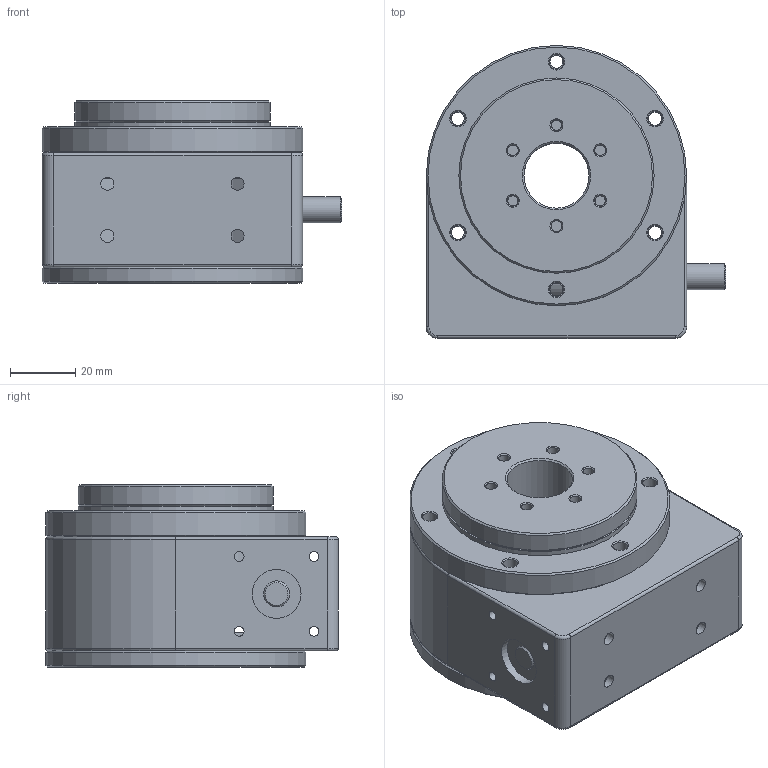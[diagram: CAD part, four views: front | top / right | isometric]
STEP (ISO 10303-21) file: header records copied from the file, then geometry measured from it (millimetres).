
FILE_DESCRIPTION((''),'2;1');
FILE_NAME('I:\Gleitlager\Konstruktion\robolink\Vorserie\RL-D\RL-D Gelenke\RL-D-20-1xx\Simpel\___RL-D-20-102-38-01035.stp','2015-05-05T08:52:38',('mraak'),(''),'Autodesk Inventor 2013','Autodesk Inventor 2013','');
FILE_SCHEMA(('AUTOMOTIVE_DESIGN { 1 0 10303 214 1 1 1 1 }'));
Length unit declared in the file: millimetre
Products named in the file (9): ___RL-D-20-102-38-00035; ___RL-D-20-0XXXX; ___RL-D-20-X0XXX; PRT-01-20; Bauteil17; Bauteil13; Bauteil15; Bauteil7; ___RL-D-20-XXX4X
Assembly tree (10 placements, depth 3):
  ___RL-D-20-102-38-00035
    ___RL-D-20-0XXXX
    ___RL-D-20-X0XXX
    PRT-01-20
      Bauteil17
      Bauteil13
      Bauteil15
      Bauteil7  x3
    ___RL-D-20-XXX4X
Bounding box: 92 x 90 x 56 mm (x, y, z)
Volume: 158085.6 mm3; surface area: 85889.8 mm2
Topology: 9 solids, 9 shells, 265 faces, 535 edges, 319 vertices
Faces by surface type: cylinder 103, cone 76, plane 73, torus 13
Full cylindrical faces by diameter (mm): 3 x8, 3.3 x6, 4 x25, 4.3 x6, 4.5 x12, 7 x3, 8 x10, 15 x3, 20 x5, 37 x2, 40 x2, 60 x5, 62 x2, 80 x2
Entity records: 5856 total; most frequent: DIRECTION 1070, CARTESIAN_POINT 856, ORIENTED_EDGE 636, AXIS2_PLACEMENT_3D 514, EDGE_LOOP 510, EDGE_CURVE 318, FACE_BOUND 285, VERTEX_POINT 282
